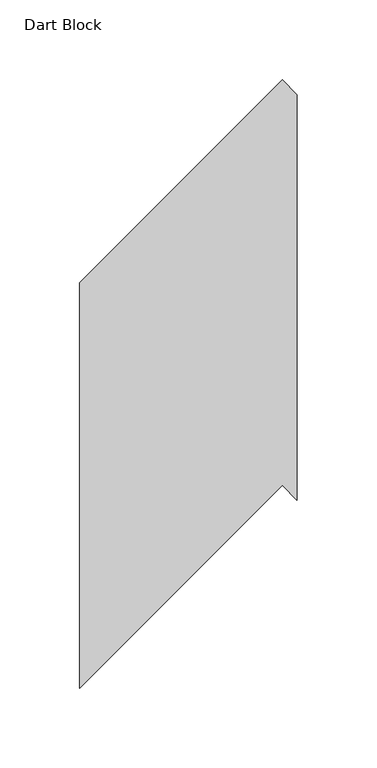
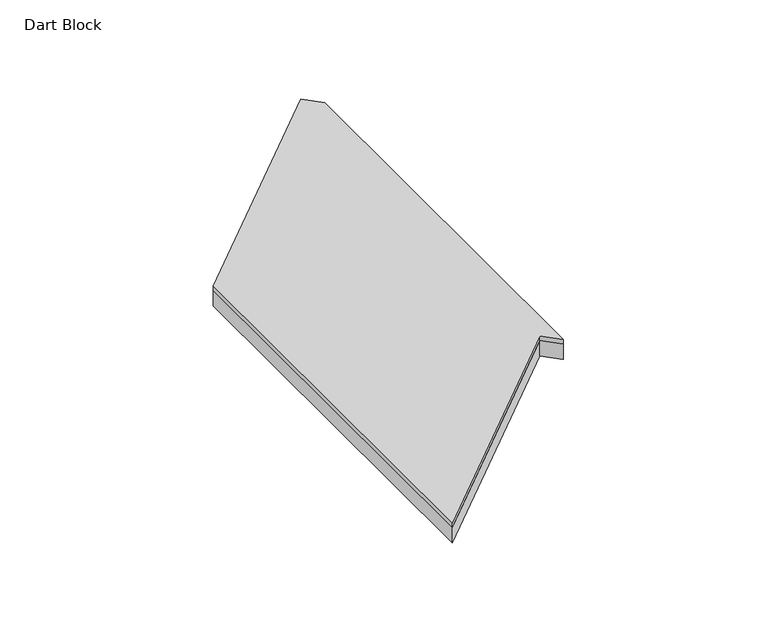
"""IFC4 building model written with IfcOpenShell, lengths in millimetres: proxy geometry, FilzFelt_Dart_Block : Dart Block."""

import ifcopenshell
import ifcopenshell.guid

model = None  # the IFC model being written
_history = None  # IfcOwnerHistory: only IFC2X3 demands one
_inside = {}  # id of a spatial element -> (the spatial element, [elements in it])
_under = {}  # id of a project, library or spatial element -> (it, [spatial elements below it])
_declared = {}  # id of a project -> (the project, [libraries it declares])
_typed = {}  # id of a type object -> (the type object, [elements of that type])
_made_of = {}  # id of a material, layer set ... -> (it, [elements and type objects made of it])


def new_model(schema):
    """Start an empty IFC model of exactly this schema.

    Asked for "IFC4X3", IfcOpenShell would pick the latest addendum, in which some entities
    have other attributes; the version numbers below select the first issue.
    IFC2X3 requires an IfcOwnerHistory on every rooted entity: one is made here for all.
    """
    global model, _history
    if schema == "IFC4X3":
        model = ifcopenshell.file(schema_version=(4, 3, 0, 0))
    else:
        model = ifcopenshell.file(schema=schema)
    _inside.clear()
    _under.clear()
    _declared.clear()
    _typed.clear()
    _made_of.clear()
    _history = None
    if model.schema == "IFC2X3":
        org = make("IfcOrganization", Name="unknown")
        user = make(
            "IfcPersonAndOrganization",
            ThePerson=make("IfcPerson", FamilyName="unknown"),
            TheOrganization=org,
        )
        app = make(
            "IfcApplication",
            ApplicationDeveloper=org,
            Version="unknown",
            ApplicationFullName="unknown",
            ApplicationIdentifier="unknown",
        )
        _history = make(
            "IfcOwnerHistory",
            OwningUser=user,
            OwningApplication=app,
            ChangeAction="ADDED",
            CreationDate=0,
        )
    return model


def make(cls, **values):
    """One entity of the class cls with the attributes given. An attribute that is None is left unset."""
    return model.create_entity(
        cls, **{name: value for name, value in values.items() if value is not None}
    )


def rooted(cls, **values):
    """An entity with a GlobalId (a new one), such as an element, a storey or a relation."""
    return make(cls, GlobalId=ifcopenshell.guid.new(), OwnerHistory=_history, **values)


def si_unit(unit_type, name, prefix=None):
    """IfcSIUnit, for example si_unit("LENGTHUNIT", "METRE", prefix="MILLI")."""
    return make("IfcSIUnit", UnitType=unit_type, Prefix=prefix, Name=name)


def assignment(units):
    """IfcUnitAssignment: the units of a project."""
    return None if units is None else make("IfcUnitAssignment", Units=units)


def point(xyz):
    """IfcCartesianPoint."""
    return None if xyz is None else make("IfcCartesianPoint", Coordinates=xyz)


def direction(xyz):
    """IfcDirection."""
    return None if xyz is None else make("IfcDirection", DirectionRatios=xyz)


def frame(location, z_axis=None, x_axis=None):
    """IfcAxis2Placement3D, a coordinate frame: its origin and axes. An axis left out is left unset."""
    return make(
        "IfcAxis2Placement3D",
        Location=point(location),
        Axis=direction(z_axis),
        RefDirection=direction(x_axis),
    )


def origin():
    """The frame at (0, 0, 0) with its axes left unset."""
    return frame((0.0, 0.0, 0.0))


def origin_with_axes():
    """The frame at (0, 0, 0) with the z axis (0, 0, 1) and the x axis (1, 0, 0) written out."""
    return frame((0.0, 0.0, 0.0), z_axis=(0.0, 0.0, 1.0), x_axis=(1.0, 0.0, 0.0))


def place(relative_to, where):
    """IfcLocalPlacement: puts the frame where relative to a parent placement (None: the world)."""
    return make(
        "IfcLocalPlacement", PlacementRelTo=relative_to, RelativePlacement=where
    )


def context(
    kind, dimensions, precision=None, world=None, true_north=None, identifier=None
):
    """IfcGeometricRepresentationContext, for example the 3D "Model" context."""
    return make(
        "IfcGeometricRepresentationContext",
        ContextIdentifier=identifier,
        ContextType=kind,
        CoordinateSpaceDimension=dimensions,
        Precision=precision,
        WorldCoordinateSystem=world,
        TrueNorth=true_north,
    )


def project(units=None, contexts=None):
    """IfcProject with its units and contexts."""
    return rooted(
        "IfcProject",
        Name="project",
        RepresentationContexts=contexts,
        UnitsInContext=assignment(units),
    )


def spatial(cls, under=None, at=None, **own):
    """A site, building, storey or space (cls), placed at a placement, below another one or the project."""
    s = rooted(cls, ObjectPlacement=at, **own)
    if under is not None:
        _under.setdefault(under.id(), (under, []))[1].append(s)
    return s


def polyline(points):
    """IfcPolyline through the points."""
    return make("IfcPolyline", Points=[point(p) for p in points])


def outline(outer, holes=None, kind="AREA"):
    """IfcArbitraryClosedProfileDef: a profile drawn as a closed curve; with holes, ...WithVoids."""
    if holes is None:
        return make("IfcArbitraryClosedProfileDef", ProfileType=kind, OuterCurve=outer)
    return make(
        "IfcArbitraryProfileDefWithVoids",
        ProfileType=kind,
        OuterCurve=outer,
        InnerCurves=holes,
    )


def extrude(swept, where, along, depth):
    """IfcExtrudedAreaSolid: the profile swept, set in the frame where, extruded along a direction by depth."""
    return make(
        "IfcExtrudedAreaSolid",
        SweptArea=swept,
        Position=where,
        ExtrudedDirection=direction(along),
        Depth=depth,
    )


def shape(context_of_items, identifier, shape_type, items):
    """IfcShapeRepresentation: the items that make up one representation, for example the "Body"."""
    return make(
        "IfcShapeRepresentation",
        ContextOfItems=context_of_items,
        RepresentationIdentifier=identifier,
        RepresentationType=shape_type,
        Items=items,
    )


def source(mapping_origin, context_of_items, identifier, shape_type, items):
    """IfcRepresentationMap: a shape defined once, which mapped items show again and again."""
    return make(
        "IfcRepresentationMap",
        MappingOrigin=mapping_origin,
        MappedRepresentation=shape(context_of_items, identifier, shape_type, items),
    )


def transform(
    local_origin,
    x_axis=None,
    y_axis=None,
    z_axis=None,
    scale=None,
    scale2=None,
    scale3=None,
    uniform=True,
):
    """IfcCartesianTransformationOperator3D, or its non-uniform kind. x_axis, y_axis, z_axis: its Axis1, 2, 3."""
    if uniform:
        return make(
            "IfcCartesianTransformationOperator3D",
            Axis1=direction(x_axis),
            Axis2=direction(y_axis),
            LocalOrigin=point(local_origin),
            Scale=scale,
            Axis3=direction(z_axis),
        )
    return make(
        "IfcCartesianTransformationOperator3DnonUniform",
        Axis1=direction(x_axis),
        Axis2=direction(y_axis),
        LocalOrigin=point(local_origin),
        Scale=scale,
        Axis3=direction(z_axis),
        Scale2=scale2,
        Scale3=scale3,
    )


def mapped(mapping_source, mapping_target):
    """IfcMappedItem: shows the shape of a source again, moved by a transform."""
    return make(
        "IfcMappedItem", MappingSource=mapping_source, MappingTarget=mapping_target
    )


def made_of(thing, what):
    """Note that an element or type object is made of a material, layer set ...; save() writes the relation."""
    if what is not None:
        _made_of.setdefault(what.id(), (what, []))[1].append(thing)
    return thing


def element(
    cls,
    number,
    at=None,
    inside=None,
    cuts=None,
    type_object=None,
    material=None,
    context=None,
    identifier="Body",
    shape_type=None,
    held_by="IfcProductDefinitionShape",
    body=None,
    shapes=None,
    **own,
):
    """One element of the class cls, such as IfcWall. Its Tag is "e" and its number.

    at: its placement. inside: the storey or other place that contains it. cuts: it is an
    opening in that element (IfcRelVoidsElement). A single representation is given by context,
    identifier, shape_type and body (its items); several are given by shapes. held_by: the class
    of the entity that holds the representations. save() writes the other relations.
    """
    e = rooted(cls, Tag="e%d" % number, ObjectPlacement=at, **own)
    if body is not None:
        shapes = [shape(context, identifier, shape_type, body)]
    if shapes is not None:
        e.Representation = make(held_by, Representations=shapes)
    if inside is not None:
        _inside.setdefault(inside.id(), (inside, []))[1].append(e)
    if cuts is not None:
        rooted(
            "IfcRelVoidsElement", RelatingBuildingElement=cuts, RelatedOpeningElement=e
        )
    if type_object is not None:
        _typed.setdefault(type_object.id(), (type_object, []))[1].append(e)
    return made_of(e, material)


def aggregate(whole, parts):
    """IfcRelAggregates: a whole, such as a stair, and the parts it consists of."""
    return rooted("IfcRelAggregates", RelatingObject=whole, RelatedObjects=parts)


def save(model, path):
    """Write the relations noted so far, then the file.

    IfcRelAggregates (storeys below a building ...), IfcRelContainedInSpatialStructure (elements
    in a storey), IfcRelDefinesByType, IfcRelAssociatesMaterial and IfcRelDeclares: one each for
    every whole, place, type object, material and project.
    """
    for whole, parts in _under.values():
        aggregate(whole, parts)
    for where, things in _inside.values():
        rooted(
            "IfcRelContainedInSpatialStructure",
            RelatedElements=things,
            RelatingStructure=where,
        )
    for kind, things in _typed.values():
        rooted("IfcRelDefinesByType", RelatedObjects=things, RelatingType=kind)
    for what, things in _made_of.values():
        rooted("IfcRelAssociatesMaterial", RelatedObjects=things, RelatingMaterial=what)
    for by, libraries in _declared.values():
        rooted("IfcRelDeclares", RelatingContext=by, RelatedDefinitions=libraries)
    model.write(path)


def dart_block_090e8753(model_context):
    return source(origin(), model_context, "Body", "SweptSolid", [
        extrude(outline(polyline([(0.0, -63.5), (-127.0, -190.5), (-127.0, 63.5), (0.0, 190.5), (9.2936857, 181.2063143), (9.2936857, -72.7936857), (0.0, -63.5)])), frame((0.0, 0.0, 10.0210937), z_axis=(0.0, 0.0, 1.0), x_axis=(1.0, 0.0, 0.0)), (0.0, 0.0, 1.0), 2.9765625),
        extrude(outline(polyline([(0.0, -63.5), (-127.0, -190.5), (-127.0, 63.5), (0.0, 190.5), (9.2936857, 181.2063143), (9.2936857, -72.7936857), (0.0, -63.5)])), origin_with_axes(), (0.0, 0.0, 1.0), 10.0210938),
    ])


if __name__ == "__main__":
    model = new_model("IFC4")
    model_context = context("Model", 3, world=origin())
    ifc_project = project(units=[si_unit("LENGTHUNIT", "METRE", prefix="MILLI")], contexts=[model_context])
    site = spatial("IfcSite", under=ifc_project)
    building = spatial("IfcBuilding", under=site)
    placement = place(None, origin())
    dart_block_shape = dart_block_090e8753(model_context)
    element("IfcBuildingElementProxy", 1, Name="FilzFelt_Dart_Block : Dart Block", ObjectType="FilzFelt_Dart_Block : Dart Block", at=placement, inside=building, context=model_context, shape_type="MappedRepresentation", body=[
        mapped(dart_block_shape, transform((0.0, 0.0, 0.0), x_axis=(1.0, 0.0, 0.0), y_axis=(0.0, 1.0, 0.0), z_axis=(0.0, 0.0, 1.0))),
    ])
    save(model, "model.ifc")
